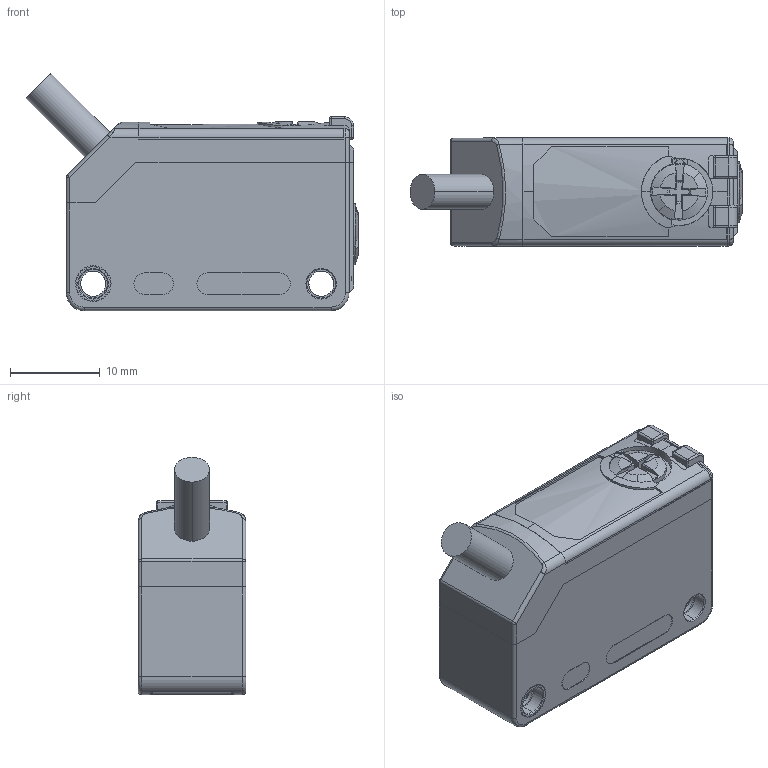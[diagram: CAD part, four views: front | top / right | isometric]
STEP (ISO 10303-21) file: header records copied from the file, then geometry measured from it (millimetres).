
FILE_DESCRIPTION (( 'STEP AP214' ), '1' );
FILE_NAME ('PF31V-E 蚾饜极.STEP', '2025-06-28T02:31:49', ( 'Windows User' ), ( 'P R C' ), 'SwSTEP 2.0', 'SolidWorks 2023', '' );
FILE_SCHEMA (( 'AUTOMOTIVE_DESIGN' ));
Length unit declared in the file: millimetre
Products named in the file (11): SD2008783-PF31V-E 接收镜架-A2; SD2008786-PF31V-E 滤光片-A0; PF31-BGS 小光斑 包胶层; SD2008787-PF31V-E 发射透镜-A1; SD2008782-PF31V-E 后盖-A3; 导线; SD2008784-PF31V-E 接收调节旋钮-A4; SD2008788-PF31V-E 接收透镜-A2; PF31V-E 装配体; SD2008785-PF31V-E LD切换旋钮-A4; SD2008781-PF31V-E 壳体-A1
Assembly tree (10 placements, depth 2):
  PF31V-E 装配体
    SD2008781-PF31V-E 壳体-A1
    SD2008782-PF31V-E 后盖-A3
    SD2008783-PF31V-E 接收镜架-A2
    SD2008784-PF31V-E 接收调节旋钮-A4
    SD2008785-PF31V-E LD切换旋钮-A4
    SD2008787-PF31V-E 发射透镜-A1
    SD2008788-PF31V-E 接收透镜-A2
    PF31-BGS 小光斑 包胶层
    SD2008786-PF31V-E 滤光片-A0
    导线
Bounding box: 36.98 x 12 x 26.44 mm (x, y, z)
Volume: 4179.3 mm3; surface area: 9016.1 mm2
Topology: 14 solids, 17 shells, 2180 faces, 6145 edges, 3991 vertices
Faces by surface type: plane 1312, cylinder 643, bspline 122, cone 97, sphere 4, torus 2
Entity records: 86018 total; most frequent: CARTESIAN_POINT 30964, ORIENTED_EDGE 12242, DIRECTION 10650, EDGE_CURVE 6123, VERTEX_POINT 3991, LINE 3858, VECTOR 3858, AXIS2_PLACEMENT_3D 3396
